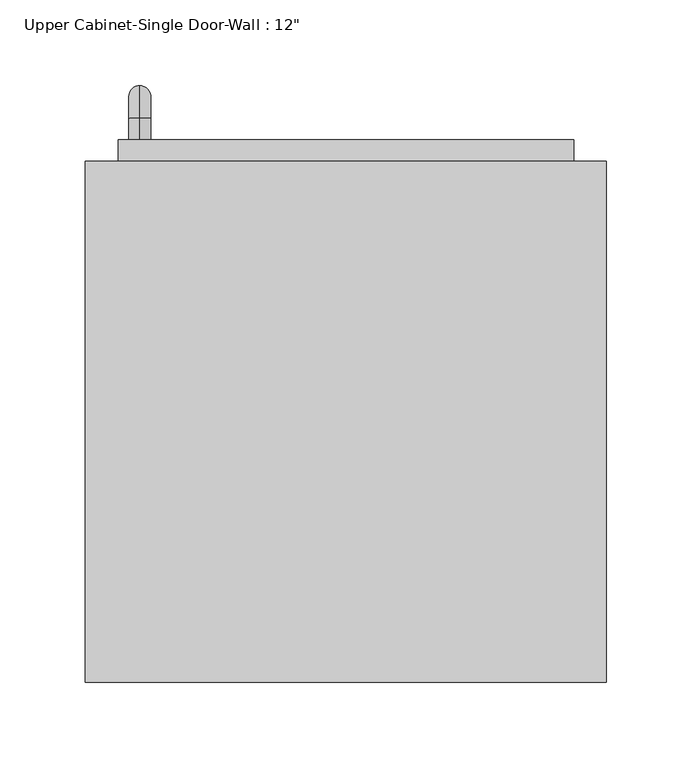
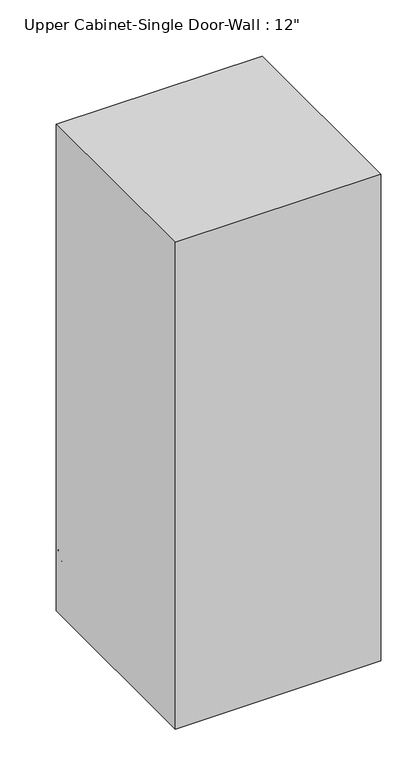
"""IFC4 building model written with IfcOpenShell, lengths in millimetres: furniture geometry."""

from ifc_helpers import new_model, si_unit, point, frame, origin, place, context, project, spatial, polyline, circle_curve, ellipse_curve, trimmed, outline, extrude, faceted_brep, source, transform, mapped, element, save
from ifc_brep_helpers import plane_surface, cylinder_surface, revolved_surface, advanced_brep


def furniture_d9efccb3(model_context):
    return source(origin(), model_context, "Body", "SolidModel", [
        faceted_brep([(-122.6288372, 57.15, 2133.6), (-122.6288372, 57.15, 1371.6), (182.1711628, 57.15, 1371.6), (182.1711628, 57.15, 2133.6), (-122.6288372, 361.95, 2133.6), (182.1711628, 361.95, 2133.6), (182.1711628, 361.95, 1371.6), (-122.6288372, 361.95, 1371.6), (-103.5788372, 361.95, 2114.55), (-103.5788372, 361.95, 1390.65), (163.1211628, 361.95, 1390.65), (163.1211628, 361.95, 2114.55), (163.1211628, 76.2, 2114.55), (-103.5788372, 76.2, 2114.55), (163.1211628, 76.2, 1390.65), (-103.5788372, 76.2, 1390.65)], [[[0, 1, 2, 3]], [[4, 5, 6, 7], [8, 9, 10, 11]], [[1, 0, 4, 7]], [[2, 1, 7, 6]], [[3, 2, 6, 5]], [[0, 3, 5, 4]], [[8, 11, 12, 13]], [[11, 10, 14, 12]], [[10, 9, 15, 14]], [[9, 8, 13, 15]], [[13, 12, 14, 15]]]),
        advanced_brep(
        [(-90.8788372, 374.65, 1517.65), (-90.8788372, 374.65, 1530.35), (-90.8788372, 387.35, 1517.65), (-90.8788372, 387.35, 1530.35), (-90.8788372, 406.4, 1511.3), (-90.8788372, 393.7, 1511.3), (-90.8788372, 393.7, 1435.1), (-90.8788372, 406.4, 1435.1), (-90.8788372, 387.35, 1416.05), (-90.8788372, 387.35, 1428.75), (-90.8788372, 374.65, 1428.75), (-90.8788372, 374.65, 1416.05)],
        [
            (0, 1, circle_curve(frame((-90.8788372, 374.65, 1524.0), z_axis=(0.0, -1.0, 0.0), x_axis=(0.0, 0.0, 1.0)), 6.35)),
            (1, 0, circle_curve(frame((-90.8788372, 374.65, 1524.0), z_axis=(0.0, -1.0, 0.0), x_axis=(0.0, 0.0, 1.0)), 6.35)),
            (0, 2),
            (2, 3, circle_curve(frame((-90.8788372, 387.35, 1524.0), z_axis=(0.0, -1.0, 0.0), x_axis=(0.0, 0.0, 1.0)), 6.35)),
            (3, 1),
            (3, 2, circle_curve(frame((-90.8788372, 387.35, 1524.0), z_axis=(0.0, -1.0, 0.0), x_axis=(0.0, 0.0, 1.0)), 6.35)),
            (4, 3, circle_curve(frame((-90.8788372, 387.35, 1511.3), z_axis=(1.0, 0.0, 0.0), x_axis=(0.0, 0.0, 1.0)), 19.05)),
            (2, 5, circle_curve(frame((-90.8788372, 387.35, 1511.3), z_axis=(-1.0, 0.0, 0.0), x_axis=(0.0, 0.0, 1.0)), 6.35)),
            (5, 4, circle_curve(frame((-90.8788372, 400.05, 1511.3), z_axis=(0.0, 0.0, 1.0), x_axis=(0.0, 1.0, 0.0)), 6.35)),
            (4, 5, circle_curve(frame((-90.8788372, 400.05, 1511.3), z_axis=(0.0, 0.0, 1.0), x_axis=(0.0, 1.0, 0.0)), 6.35)),
            (5, 6),
            (6, 7, circle_curve(frame((-90.8788372, 400.05, 1435.1), z_axis=(0.0, 0.0, 1.0), x_axis=(0.0, 1.0, 0.0)), 6.35)),
            (7, 4),
            (7, 6, circle_curve(frame((-90.8788372, 400.05, 1435.1), z_axis=(0.0, 0.0, 1.0), x_axis=(0.0, 1.0, 0.0)), 6.35)),
            (8, 7, circle_curve(frame((-90.8788372, 387.35, 1435.1), z_axis=(1.0, 0.0, 0.0), x_axis=(0.0, 1.0, 0.0)), 19.05)),
            (6, 9, circle_curve(frame((-90.8788372, 387.35, 1435.1), z_axis=(-1.0, 0.0, 0.0), x_axis=(0.0, 1.0, 0.0)), 6.35)),
            (9, 8, circle_curve(frame((-90.8788372, 387.35, 1422.4), z_axis=(0.0, 1.0, 0.0), x_axis=(0.0, 0.0, -1.0)), 6.35)),
            (8, 9, circle_curve(frame((-90.8788372, 387.35, 1422.4), z_axis=(0.0, 1.0, 0.0), x_axis=(0.0, 0.0, -1.0)), 6.35)),
            (10, 11, circle_curve(frame((-90.8788372, 374.65, 1422.4), z_axis=(0.0, -1.0, 0.0), x_axis=(0.0, 0.0, -1.0)), 6.35)),
            (11, 10, circle_curve(frame((-90.8788372, 374.65, 1422.4), z_axis=(0.0, -1.0, 0.0), x_axis=(0.0, 0.0, -1.0)), 6.35)),
            (9, 10),
            (11, 8),
        ],
        [
            plane_surface(frame((-97.2288372, 374.65, 1524.0), z_axis=(0.0, -1.0, 0.0), x_axis=(0.0, 0.0, 1.0))),
            cylinder_surface(frame((-90.8788372, 374.65, 1524.0), z_axis=(0.0, -1.0, 0.0), x_axis=(0.0, 0.0, 1.0)), 6.35),
            revolved_surface(trimmed(ellipse_curve(frame((-90.8788372, 387.35, 1524.0), z_axis=(0.0, -1.0, 0.0), x_axis=(0.0, 0.0, 1.0)), 6.35, 6.35), [point((-90.8788372, 387.35, 1517.65))], [point((-90.8788372, 387.35, 1530.35))], True, "CARTESIAN"), (-90.8788372, 387.35, 1511.3), (-1.0, 0.0, 0.0)),
            revolved_surface(trimmed(ellipse_curve(frame((-90.8788372, 387.35, 1524.0), z_axis=(0.0, -1.0, 0.0), x_axis=(0.0, 0.0, 1.0)), 6.35, 6.35), [point((-90.8788372, 387.35, 1530.35))], [point((-90.8788372, 387.35, 1517.65))], True, "CARTESIAN"), (-90.8788372, 387.35, 1511.3), (-1.0, 0.0, 0.0)),
            cylinder_surface(frame((-90.8788372, 400.05, 1511.3), z_axis=(0.0, 0.0, 1.0), x_axis=(0.0, 1.0, 0.0)), 6.35),
            revolved_surface(trimmed(ellipse_curve(frame((-90.8788372, 400.05, 1435.1), z_axis=(0.0, 0.0, 1.0), x_axis=(0.0, 1.0, 0.0)), 6.35, 6.35), [point((-90.8788372, 393.7, 1435.1))], [point((-90.8788372, 406.4, 1435.1))], True, "CARTESIAN"), (-90.8788372, 387.35, 1435.1), (-1.0, 0.0, 0.0)),
            revolved_surface(trimmed(ellipse_curve(frame((-90.8788372, 400.05, 1435.1), z_axis=(0.0, 0.0, 1.0), x_axis=(0.0, 1.0, 0.0)), 6.35, 6.35), [point((-90.8788372, 406.4, 1435.1))], [point((-90.8788372, 393.7, 1435.1))], True, "CARTESIAN"), (-90.8788372, 387.35, 1435.1), (-1.0, 0.0, 0.0)),
            plane_surface(frame((-97.2288372, 374.65, 1422.4), z_axis=(0.0, -1.0, 0.0), x_axis=(0.0, 0.0, -1.0))),
            cylinder_surface(frame((-90.8788372, 387.35, 1422.4), z_axis=(0.0, 1.0, 0.0), x_axis=(0.0, 0.0, -1.0)), 6.35),
        ],
        [
            (0, [[1, 2]]),
            (1, [[-1, 3, 4, 5]]),
            (1, [[-2, -5, 6, -3]]),
            (2, [[7, -4, 8, 9]]),
            (3, [[-8, -6, -7, 10]]),
            (4, [[-9, 11, 12, 13]]),
            (4, [[-10, -13, 14, -11]]),
            (5, [[15, -12, 16, 17]]),
            (6, [[-16, -14, -15, 18]]),
            (7, [[19, 20]]),
            (8, [[-17, 21, -20, 22]]),
            (8, [[-18, -22, -19, -21]]),
        ],
    ),
        extrude(outline(polyline([(-103.5788372, 374.65), (163.1211628, 374.65), (163.1211628, 342.9), (-103.5788372, 342.9), (-103.5788372, 374.65)])), frame((0.0, 0.0, 1390.65), z_axis=(0.0, 0.0, 1.0), x_axis=(1.0, 0.0, 0.0)), (0.0, 0.0, 1.0), 723.9),
    ])


if __name__ == "__main__":
    model = new_model("IFC4")
    model_context = context("Model", 3, world=origin())
    ifc_project = project(units=[si_unit("LENGTHUNIT", "METRE", prefix="MILLI")], contexts=[model_context])
    site = spatial("IfcSite", under=ifc_project)
    building = spatial("IfcBuilding", under=site)
    placement = place(None, origin())
    furniture_shape = furniture_d9efccb3(model_context)
    element("IfcFurniture", 1, ObjectType="Upper Cabinet-Single Door-Wall : 12\"", at=placement, inside=building, context=model_context, shape_type="MappedRepresentation", body=[
        mapped(furniture_shape, transform((0.0, 0.0, 0.0), x_axis=(1.0, 0.0, 0.0), y_axis=(0.0, 1.0, 0.0), z_axis=(0.0, 0.0, 1.0))),
    ])
    save(model, "model.ifc")
